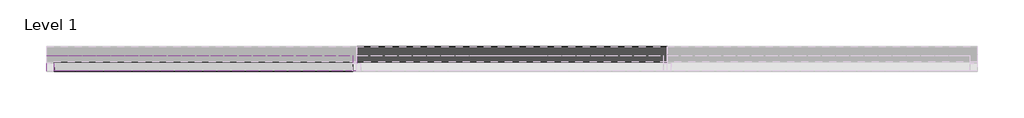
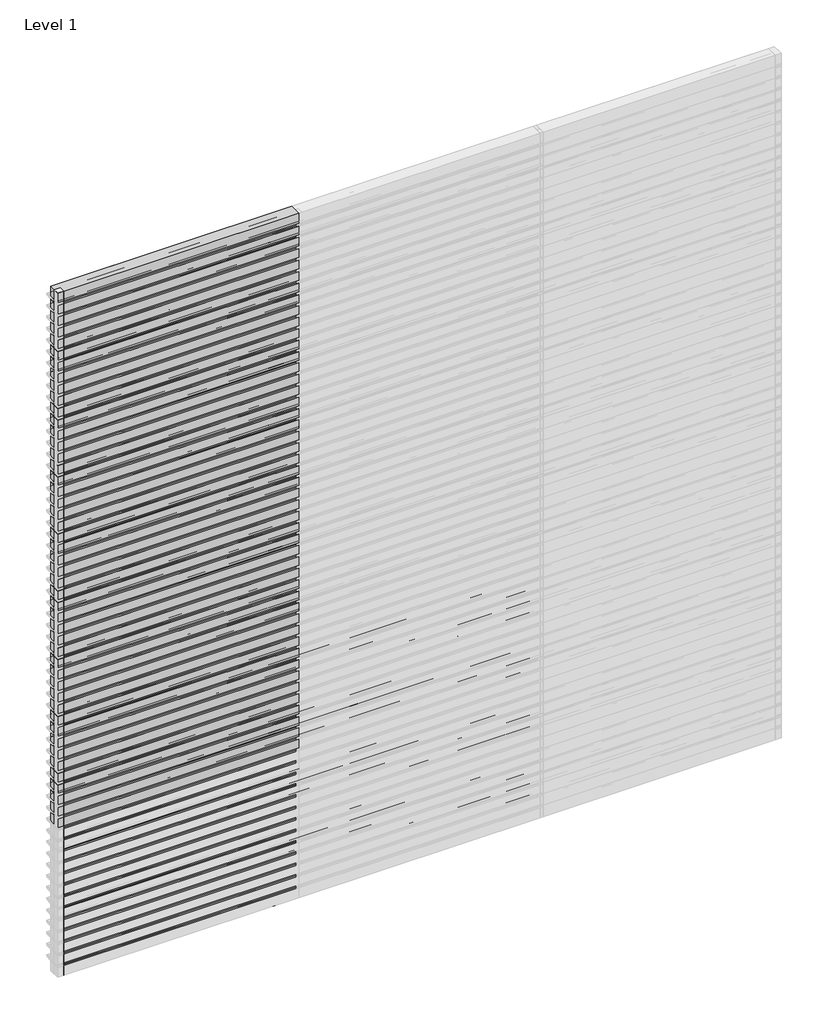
# One storey, part 2 of 6: 107 plates, 20 members.
"""IFC4 building model written with IfcOpenShell, lengths in millimetres."""

from ifc_helpers import new_model, si_unit, origin, place, context, project, spatial, transform, mapped, element, save
from components import rectangular_mullion_31e9810d, empty_system_panel_empty_de6cefbe, empty_system_panel_empty_499a71de, empty_system_panel_empty_20ea7497

model = new_model("IFC4")

# Units and contexts
model_context = context("Model", 3, world=origin())
ifc_project = project(units=[si_unit("LENGTHUNIT", "METRE", prefix="MILLI")], contexts=[model_context])

# Site, building, storey
site = spatial("IfcSite", under=ifc_project)
building = spatial("IfcBuilding", under=site)
storey = spatial("IfcBuildingStorey", under=building, Name="Level 1", Elevation=0.0)

# Members
placement = place(None, origin())
rectangular_mullion_shape = rectangular_mullion_31e9810d(model_context)
element("IfcMember", 1, ObjectType="Rectangular Mullion : RSen_21_CWM_blade - 100 ellips - 0°_gen_duco projects", at=placement, inside=storey, context=model_context, shape_type="MappedRepresentation", body=[
    mapped(rectangular_mullion_shape, transform((2000.0, 3000.0, 100.0), x_axis=(0.0, 0.0, 1.0), y_axis=(0.0, 1.0, 0.0), z_axis=(-1.0, 0.0, 0.0))),
])
element("IfcMember", 2, ObjectType="Rectangular Mullion : RSen_21_CWM_blade - 100 ellips - 0°_gen_duco projects", at=placement, inside=storey, context=model_context, shape_type="MappedRepresentation", body=[
    mapped(rectangular_mullion_shape, transform((2000.0, 3000.0, 200.0), x_axis=(0.0, 0.0, 1.0), y_axis=(0.0, 1.0, 0.0), z_axis=(-1.0, 0.0, 0.0))),
])
element("IfcMember", 3, ObjectType="Rectangular Mullion : RSen_21_CWM_blade - 100 ellips - 0°_gen_duco projects", at=placement, inside=storey, context=model_context, shape_type="MappedRepresentation", body=[
    mapped(rectangular_mullion_shape, transform((2000.0, 3000.0, 300.0), x_axis=(0.0, 0.0, 1.0), y_axis=(0.0, 1.0, 0.0), z_axis=(-1.0, 0.0, 0.0))),
])
element("IfcMember", 4, ObjectType="Rectangular Mullion : RSen_21_CWM_blade - 100 ellips - 0°_gen_duco projects", at=placement, inside=storey, context=model_context, shape_type="MappedRepresentation", body=[
    mapped(rectangular_mullion_shape, transform((2000.0, 3000.0, 400.0), x_axis=(0.0, 0.0, 1.0), y_axis=(0.0, 1.0, 0.0), z_axis=(-1.0, 0.0, 0.0))),
])
element("IfcMember", 5, ObjectType="Rectangular Mullion : RSen_21_CWM_blade - 100 ellips - 0°_gen_duco projects", at=placement, inside=storey, context=model_context, shape_type="MappedRepresentation", body=[
    mapped(rectangular_mullion_shape, transform((2000.0, 3000.0, 500.0), x_axis=(0.0, 0.0, 1.0), y_axis=(0.0, 1.0, 0.0), z_axis=(-1.0, 0.0, 0.0))),
])
element("IfcMember", 6, ObjectType="Rectangular Mullion : RSen_21_CWM_blade - 100 ellips - 0°_gen_duco projects", at=placement, inside=storey, context=model_context, shape_type="MappedRepresentation", body=[
    mapped(rectangular_mullion_shape, transform((2000.0, 3000.0, 600.0), x_axis=(0.0, 0.0, 1.0), y_axis=(0.0, 1.0, 0.0), z_axis=(-1.0, 0.0, 0.0))),
])
element("IfcMember", 7, ObjectType="Rectangular Mullion : RSen_21_CWM_blade - 100 ellips - 0°_gen_duco projects", at=placement, inside=storey, context=model_context, shape_type="MappedRepresentation", body=[
    mapped(rectangular_mullion_shape, transform((2000.0, 3000.0, 700.0), x_axis=(0.0, 0.0, 1.0), y_axis=(0.0, 1.0, 0.0), z_axis=(-1.0, 0.0, 0.0))),
])
element("IfcMember", 8, ObjectType="Rectangular Mullion : RSen_21_CWM_blade - 100 ellips - 0°_gen_duco projects", at=placement, inside=storey, context=model_context, shape_type="MappedRepresentation", body=[
    mapped(rectangular_mullion_shape, transform((2000.0, 3000.0, 800.0), x_axis=(0.0, 0.0, 1.0), y_axis=(0.0, 1.0, 0.0), z_axis=(-1.0, 0.0, 0.0))),
])
element("IfcMember", 9, ObjectType="Rectangular Mullion : RSen_21_CWM_blade - 100 ellips - 0°_gen_duco projects", at=placement, inside=storey, context=model_context, shape_type="MappedRepresentation", body=[
    mapped(rectangular_mullion_shape, transform((2000.0, 3000.0, 900.0), x_axis=(0.0, 0.0, 1.0), y_axis=(0.0, 1.0, 0.0), z_axis=(-1.0, 0.0, 0.0))),
])
element("IfcMember", 10, ObjectType="Rectangular Mullion : RSen_21_CWM_blade - 100 ellips - 0°_gen_duco projects", at=placement, inside=storey, context=model_context, shape_type="MappedRepresentation", body=[
    mapped(rectangular_mullion_shape, transform((2000.0, 3000.0, 1000.0), x_axis=(0.0, 0.0, 1.0), y_axis=(0.0, 1.0, 0.0), z_axis=(-1.0, 0.0, 0.0))),
])
element("IfcMember", 11, ObjectType="Rectangular Mullion : RSen_21_CWM_blade - 100 ellips - 0°_gen_duco projects", at=placement, inside=storey, context=model_context, shape_type="MappedRepresentation", body=[
    mapped(rectangular_mullion_shape, transform((2000.0, 3000.0, 1100.0), x_axis=(0.0, 0.0, 1.0), y_axis=(0.0, 1.0, 0.0), z_axis=(-1.0, 0.0, 0.0))),
])
element("IfcMember", 12, ObjectType="Rectangular Mullion : RSen_21_CWM_blade - 100 ellips - 0°_gen_duco projects", at=placement, inside=storey, context=model_context, shape_type="MappedRepresentation", body=[
    mapped(rectangular_mullion_shape, transform((2000.0, 3000.0, 1200.0), x_axis=(0.0, 0.0, 1.0), y_axis=(0.0, 1.0, 0.0), z_axis=(-1.0, 0.0, 0.0))),
])
element("IfcMember", 13, ObjectType="Rectangular Mullion : RSen_21_CWM_blade - 100 ellips - 0°_gen_duco projects", at=placement, inside=storey, context=model_context, shape_type="MappedRepresentation", body=[
    mapped(rectangular_mullion_shape, transform((2000.0, 3000.0, 1300.0), x_axis=(0.0, 0.0, 1.0), y_axis=(0.0, 1.0, 0.0), z_axis=(-1.0, 0.0, 0.0))),
])
element("IfcMember", 14, ObjectType="Rectangular Mullion : RSen_21_CWM_blade - 100 ellips - 0°_gen_duco projects", at=placement, inside=storey, context=model_context, shape_type="MappedRepresentation", body=[
    mapped(rectangular_mullion_shape, transform((2000.0, 3000.0, 1400.0), x_axis=(0.0, 0.0, 1.0), y_axis=(0.0, 1.0, 0.0), z_axis=(-1.0, 0.0, 0.0))),
])
element("IfcMember", 15, ObjectType="Rectangular Mullion : RSen_21_CWM_blade - 100 ellips - 0°_gen_duco projects", at=placement, inside=storey, context=model_context, shape_type="MappedRepresentation", body=[
    mapped(rectangular_mullion_shape, transform((2000.0, 3000.0, 1500.0), x_axis=(0.0, 0.0, 1.0), y_axis=(0.0, 1.0, 0.0), z_axis=(-1.0, 0.0, 0.0))),
])
element("IfcMember", 16, ObjectType="Rectangular Mullion : RSen_21_CWM_blade - 100 ellips - 0°_gen_duco projects", at=placement, inside=storey, context=model_context, shape_type="MappedRepresentation", body=[
    mapped(rectangular_mullion_shape, transform((2000.0, 3000.0, 1600.0), x_axis=(0.0, 0.0, 1.0), y_axis=(0.0, 1.0, 0.0), z_axis=(-1.0, 0.0, 0.0))),
])
element("IfcMember", 17, ObjectType="Rectangular Mullion : RSen_21_CWM_blade - 100 ellips - 0°_gen_duco projects", at=placement, inside=storey, context=model_context, shape_type="MappedRepresentation", body=[
    mapped(rectangular_mullion_shape, transform((2000.0, 3000.0, 1700.0), x_axis=(0.0, 0.0, 1.0), y_axis=(0.0, 1.0, 0.0), z_axis=(-1.0, 0.0, 0.0))),
])
element("IfcMember", 18, ObjectType="Rectangular Mullion : RSen_21_CWM_blade - 100 ellips - 0°_gen_duco projects", at=placement, inside=storey, context=model_context, shape_type="MappedRepresentation", body=[
    mapped(rectangular_mullion_shape, transform((2000.0, 3000.0, 1800.0), x_axis=(0.0, 0.0, 1.0), y_axis=(0.0, 1.0, 0.0), z_axis=(-1.0, 0.0, 0.0))),
])
element("IfcMember", 19, ObjectType="Rectangular Mullion : RSen_21_CWM_blade - 100 ellips - 0°_gen_duco projects", at=placement, inside=storey, context=model_context, shape_type="MappedRepresentation", body=[
    mapped(rectangular_mullion_shape, transform((2000.0, 3000.0, 1900.0), x_axis=(0.0, 0.0, 1.0), y_axis=(0.0, 1.0, 0.0), z_axis=(-1.0, 0.0, 0.0))),
])
element("IfcMember", 20, ObjectType="Rectangular Mullion : RSen_21_CWM_blade - 100 ellips - 0°_gen_duco projects", at=placement, inside=storey, context=model_context, shape_type="MappedRepresentation", body=[
    mapped(rectangular_mullion_shape, transform((2000.0, 3000.0, 2000.0), x_axis=(0.0, 0.0, 1.0), y_axis=(0.0, 1.0, 0.0), z_axis=(-1.0, 0.0, 0.0))),
])

# Plates
empty_system_panel_empty_shape = empty_system_panel_empty_de6cefbe(model_context)
element("IfcPlate", 21, ObjectType="Empty System Panel : Empty", at=placement, inside=storey, context=model_context, shape_type="MappedRepresentation", body=[
    mapped(empty_system_panel_empty_shape, transform((1000.0, 3000.0, 5913.0), x_axis=(-1.0, 0.0, 0.0), y_axis=(0.0, -1.0, 0.0), z_axis=(0.0, 0.0, 1.0))),
])
empty_system_panel_empty_2_shape = empty_system_panel_empty_499a71de(model_context)
element("IfcPlate", 22, ObjectType="Empty System Panel : Empty", at=placement, inside=storey, context=model_context, shape_type="MappedRepresentation", body=[
    mapped(empty_system_panel_empty_2_shape, transform((1000.0, 3000.0, 1313.0), x_axis=(-1.0, 0.0, 0.0), y_axis=(0.0, -1.0, 0.0), z_axis=(0.0, 0.0, 1.0))),
])
element("IfcPlate", 23, ObjectType="Empty System Panel : Empty", at=placement, inside=storey, context=model_context, shape_type="MappedRepresentation", body=[
    mapped(empty_system_panel_empty_2_shape, transform((1000.0, 3000.0, 1413.0), x_axis=(-1.0, 0.0, 0.0), y_axis=(0.0, -1.0, 0.0), z_axis=(0.0, 0.0, 1.0))),
])
element("IfcPlate", 24, ObjectType="Empty System Panel : Empty", at=placement, inside=storey, context=model_context, shape_type="MappedRepresentation", body=[
    mapped(empty_system_panel_empty_2_shape, transform((1000.0, 3000.0, 1513.0), x_axis=(-1.0, 0.0, 0.0), y_axis=(0.0, -1.0, 0.0), z_axis=(0.0, 0.0, 1.0))),
])
element("IfcPlate", 25, ObjectType="Empty System Panel : Empty", at=placement, inside=storey, context=model_context, shape_type="MappedRepresentation", body=[
    mapped(empty_system_panel_empty_2_shape, transform((1000.0, 3000.0, 1613.0), x_axis=(-1.0, 0.0, 0.0), y_axis=(0.0, -1.0, 0.0), z_axis=(0.0, 0.0, 1.0))),
])
element("IfcPlate", 26, ObjectType="Empty System Panel : Empty", at=placement, inside=storey, context=model_context, shape_type="MappedRepresentation", body=[
    mapped(empty_system_panel_empty_2_shape, transform((1000.0, 3000.0, 1713.0), x_axis=(-1.0, 0.0, 0.0), y_axis=(0.0, -1.0, 0.0), z_axis=(0.0, 0.0, 1.0))),
])
element("IfcPlate", 27, ObjectType="Empty System Panel : Empty", at=placement, inside=storey, context=model_context, shape_type="MappedRepresentation", body=[
    mapped(empty_system_panel_empty_2_shape, transform((1000.0, 3000.0, 1813.0), x_axis=(-1.0, 0.0, 0.0), y_axis=(0.0, -1.0, 0.0), z_axis=(0.0, 0.0, 1.0))),
])
element("IfcPlate", 28, ObjectType="Empty System Panel : Empty", at=placement, inside=storey, context=model_context, shape_type="MappedRepresentation", body=[
    mapped(empty_system_panel_empty_2_shape, transform((1000.0, 3000.0, 1913.0), x_axis=(-1.0, 0.0, 0.0), y_axis=(0.0, -1.0, 0.0), z_axis=(0.0, 0.0, 1.0))),
])
element("IfcPlate", 29, ObjectType="Empty System Panel : Empty", at=placement, inside=storey, context=model_context, shape_type="MappedRepresentation", body=[
    mapped(empty_system_panel_empty_2_shape, transform((1000.0, 3000.0, 2013.0), x_axis=(-1.0, 0.0, 0.0), y_axis=(0.0, -1.0, 0.0), z_axis=(0.0, 0.0, 1.0))),
])
element("IfcPlate", 30, ObjectType="Empty System Panel : Empty", at=placement, inside=storey, context=model_context, shape_type="MappedRepresentation", body=[
    mapped(empty_system_panel_empty_2_shape, transform((1000.0, 3000.0, 2113.0), x_axis=(-1.0, 0.0, 0.0), y_axis=(0.0, -1.0, 0.0), z_axis=(0.0, 0.0, 1.0))),
])
element("IfcPlate", 31, ObjectType="Empty System Panel : Empty", at=placement, inside=storey, context=model_context, shape_type="MappedRepresentation", body=[
    mapped(empty_system_panel_empty_2_shape, transform((1000.0, 3000.0, 2213.0), x_axis=(-1.0, 0.0, 0.0), y_axis=(0.0, -1.0, 0.0), z_axis=(0.0, 0.0, 1.0))),
])
element("IfcPlate", 32, ObjectType="Empty System Panel : Empty", at=placement, inside=storey, context=model_context, shape_type="MappedRepresentation", body=[
    mapped(empty_system_panel_empty_2_shape, transform((1000.0, 3000.0, 2313.0), x_axis=(-1.0, 0.0, 0.0), y_axis=(0.0, -1.0, 0.0), z_axis=(0.0, 0.0, 1.0))),
])
element("IfcPlate", 33, ObjectType="Empty System Panel : Empty", at=placement, inside=storey, context=model_context, shape_type="MappedRepresentation", body=[
    mapped(empty_system_panel_empty_2_shape, transform((1000.0, 3000.0, 2413.0), x_axis=(-1.0, 0.0, 0.0), y_axis=(0.0, -1.0, 0.0), z_axis=(0.0, 0.0, 1.0))),
])
element("IfcPlate", 34, ObjectType="Empty System Panel : Empty", at=placement, inside=storey, context=model_context, shape_type="MappedRepresentation", body=[
    mapped(empty_system_panel_empty_2_shape, transform((1000.0, 3000.0, 2513.0), x_axis=(-1.0, 0.0, 0.0), y_axis=(0.0, -1.0, 0.0), z_axis=(0.0, 0.0, 1.0))),
])
element("IfcPlate", 35, ObjectType="Empty System Panel : Empty", at=placement, inside=storey, context=model_context, shape_type="MappedRepresentation", body=[
    mapped(empty_system_panel_empty_2_shape, transform((1000.0, 3000.0, 2613.0), x_axis=(-1.0, 0.0, 0.0), y_axis=(0.0, -1.0, 0.0), z_axis=(0.0, 0.0, 1.0))),
])
element("IfcPlate", 36, ObjectType="Empty System Panel : Empty", at=placement, inside=storey, context=model_context, shape_type="MappedRepresentation", body=[
    mapped(empty_system_panel_empty_2_shape, transform((1000.0, 3000.0, 2713.0), x_axis=(-1.0, 0.0, 0.0), y_axis=(0.0, -1.0, 0.0), z_axis=(0.0, 0.0, 1.0))),
])
element("IfcPlate", 37, ObjectType="Empty System Panel : Empty", at=placement, inside=storey, context=model_context, shape_type="MappedRepresentation", body=[
    mapped(empty_system_panel_empty_2_shape, transform((1000.0, 3000.0, 2813.0), x_axis=(-1.0, 0.0, 0.0), y_axis=(0.0, -1.0, 0.0), z_axis=(0.0, 0.0, 1.0))),
])
element("IfcPlate", 38, ObjectType="Empty System Panel : Empty", at=placement, inside=storey, context=model_context, shape_type="MappedRepresentation", body=[
    mapped(empty_system_panel_empty_2_shape, transform((1000.0, 3000.0, 2913.0), x_axis=(-1.0, 0.0, 0.0), y_axis=(0.0, -1.0, 0.0), z_axis=(0.0, 0.0, 1.0))),
])
element("IfcPlate", 39, ObjectType="Empty System Panel : Empty", at=placement, inside=storey, context=model_context, shape_type="MappedRepresentation", body=[
    mapped(empty_system_panel_empty_2_shape, transform((1000.0, 3000.0, 3013.0), x_axis=(-1.0, 0.0, 0.0), y_axis=(0.0, -1.0, 0.0), z_axis=(0.0, 0.0, 1.0))),
])
element("IfcPlate", 40, ObjectType="Empty System Panel : Empty", at=placement, inside=storey, context=model_context, shape_type="MappedRepresentation", body=[
    mapped(empty_system_panel_empty_2_shape, transform((1000.0, 3000.0, 3113.0), x_axis=(-1.0, 0.0, 0.0), y_axis=(0.0, -1.0, 0.0), z_axis=(0.0, 0.0, 1.0))),
])
element("IfcPlate", 41, ObjectType="Empty System Panel : Empty", at=placement, inside=storey, context=model_context, shape_type="MappedRepresentation", body=[
    mapped(empty_system_panel_empty_2_shape, transform((1000.0, 3000.0, 3213.0), x_axis=(-1.0, 0.0, 0.0), y_axis=(0.0, -1.0, 0.0), z_axis=(0.0, 0.0, 1.0))),
])
element("IfcPlate", 42, ObjectType="Empty System Panel : Empty", at=placement, inside=storey, context=model_context, shape_type="MappedRepresentation", body=[
    mapped(empty_system_panel_empty_2_shape, transform((1000.0, 3000.0, 3313.0), x_axis=(-1.0, 0.0, 0.0), y_axis=(0.0, -1.0, 0.0), z_axis=(0.0, 0.0, 1.0))),
])
element("IfcPlate", 43, ObjectType="Empty System Panel : Empty", at=placement, inside=storey, context=model_context, shape_type="MappedRepresentation", body=[
    mapped(empty_system_panel_empty_2_shape, transform((1000.0, 3000.0, 3413.0), x_axis=(-1.0, 0.0, 0.0), y_axis=(0.0, -1.0, 0.0), z_axis=(0.0, 0.0, 1.0))),
])
element("IfcPlate", 44, ObjectType="Empty System Panel : Empty", at=placement, inside=storey, context=model_context, shape_type="MappedRepresentation", body=[
    mapped(empty_system_panel_empty_2_shape, transform((1000.0, 3000.0, 3513.0), x_axis=(-1.0, 0.0, 0.0), y_axis=(0.0, -1.0, 0.0), z_axis=(0.0, 0.0, 1.0))),
])
element("IfcPlate", 45, ObjectType="Empty System Panel : Empty", at=placement, inside=storey, context=model_context, shape_type="MappedRepresentation", body=[
    mapped(empty_system_panel_empty_2_shape, transform((1000.0, 3000.0, 3613.0), x_axis=(-1.0, 0.0, 0.0), y_axis=(0.0, -1.0, 0.0), z_axis=(0.0, 0.0, 1.0))),
])
element("IfcPlate", 46, ObjectType="Empty System Panel : Empty", at=placement, inside=storey, context=model_context, shape_type="MappedRepresentation", body=[
    mapped(empty_system_panel_empty_2_shape, transform((1000.0, 3000.0, 3713.0), x_axis=(-1.0, 0.0, 0.0), y_axis=(0.0, -1.0, 0.0), z_axis=(0.0, 0.0, 1.0))),
])
element("IfcPlate", 47, ObjectType="Empty System Panel : Empty", at=placement, inside=storey, context=model_context, shape_type="MappedRepresentation", body=[
    mapped(empty_system_panel_empty_2_shape, transform((1000.0, 3000.0, 3813.0), x_axis=(-1.0, 0.0, 0.0), y_axis=(0.0, -1.0, 0.0), z_axis=(0.0, 0.0, 1.0))),
])
element("IfcPlate", 48, ObjectType="Empty System Panel : Empty", at=placement, inside=storey, context=model_context, shape_type="MappedRepresentation", body=[
    mapped(empty_system_panel_empty_2_shape, transform((1000.0, 3000.0, 3913.0), x_axis=(-1.0, 0.0, 0.0), y_axis=(0.0, -1.0, 0.0), z_axis=(0.0, 0.0, 1.0))),
])
element("IfcPlate", 49, ObjectType="Empty System Panel : Empty", at=placement, inside=storey, context=model_context, shape_type="MappedRepresentation", body=[
    mapped(empty_system_panel_empty_2_shape, transform((1000.0, 3000.0, 4013.0), x_axis=(-1.0, 0.0, 0.0), y_axis=(0.0, -1.0, 0.0), z_axis=(0.0, 0.0, 1.0))),
])
element("IfcPlate", 50, ObjectType="Empty System Panel : Empty", at=placement, inside=storey, context=model_context, shape_type="MappedRepresentation", body=[
    mapped(empty_system_panel_empty_2_shape, transform((1000.0, 3000.0, 4113.0), x_axis=(-1.0, 0.0, 0.0), y_axis=(0.0, -1.0, 0.0), z_axis=(0.0, 0.0, 1.0))),
])
element("IfcPlate", 51, ObjectType="Empty System Panel : Empty", at=placement, inside=storey, context=model_context, shape_type="MappedRepresentation", body=[
    mapped(empty_system_panel_empty_2_shape, transform((1000.0, 3000.0, 4213.0), x_axis=(-1.0, 0.0, 0.0), y_axis=(0.0, -1.0, 0.0), z_axis=(0.0, 0.0, 1.0))),
])
element("IfcPlate", 52, ObjectType="Empty System Panel : Empty", at=placement, inside=storey, context=model_context, shape_type="MappedRepresentation", body=[
    mapped(empty_system_panel_empty_2_shape, transform((1000.0, 3000.0, 4313.0), x_axis=(-1.0, 0.0, 0.0), y_axis=(0.0, -1.0, 0.0), z_axis=(0.0, 0.0, 1.0))),
])
element("IfcPlate", 53, ObjectType="Empty System Panel : Empty", at=placement, inside=storey, context=model_context, shape_type="MappedRepresentation", body=[
    mapped(empty_system_panel_empty_2_shape, transform((1000.0, 3000.0, 4413.0), x_axis=(-1.0, 0.0, 0.0), y_axis=(0.0, -1.0, 0.0), z_axis=(0.0, 0.0, 1.0))),
])
element("IfcPlate", 54, ObjectType="Empty System Panel : Empty", at=placement, inside=storey, context=model_context, shape_type="MappedRepresentation", body=[
    mapped(empty_system_panel_empty_2_shape, transform((1000.0, 3000.0, 4513.0), x_axis=(-1.0, 0.0, 0.0), y_axis=(0.0, -1.0, 0.0), z_axis=(0.0, 0.0, 1.0))),
])
element("IfcPlate", 55, ObjectType="Empty System Panel : Empty", at=placement, inside=storey, context=model_context, shape_type="MappedRepresentation", body=[
    mapped(empty_system_panel_empty_2_shape, transform((1000.0, 3000.0, 4613.0), x_axis=(-1.0, 0.0, 0.0), y_axis=(0.0, -1.0, 0.0), z_axis=(0.0, 0.0, 1.0))),
])
element("IfcPlate", 56, ObjectType="Empty System Panel : Empty", at=placement, inside=storey, context=model_context, shape_type="MappedRepresentation", body=[
    mapped(empty_system_panel_empty_2_shape, transform((1000.0, 3000.0, 4713.0), x_axis=(-1.0, 0.0, 0.0), y_axis=(0.0, -1.0, 0.0), z_axis=(0.0, 0.0, 1.0))),
])
element("IfcPlate", 57, ObjectType="Empty System Panel : Empty", at=placement, inside=storey, context=model_context, shape_type="MappedRepresentation", body=[
    mapped(empty_system_panel_empty_2_shape, transform((1000.0, 3000.0, 4813.0), x_axis=(-1.0, 0.0, 0.0), y_axis=(0.0, -1.0, 0.0), z_axis=(0.0, 0.0, 1.0))),
])
element("IfcPlate", 58, ObjectType="Empty System Panel : Empty", at=placement, inside=storey, context=model_context, shape_type="MappedRepresentation", body=[
    mapped(empty_system_panel_empty_2_shape, transform((1000.0, 3000.0, 4913.0), x_axis=(-1.0, 0.0, 0.0), y_axis=(0.0, -1.0, 0.0), z_axis=(0.0, 0.0, 1.0))),
])
element("IfcPlate", 59, ObjectType="Empty System Panel : Empty", at=placement, inside=storey, context=model_context, shape_type="MappedRepresentation", body=[
    mapped(empty_system_panel_empty_2_shape, transform((1000.0, 3000.0, 5013.0), x_axis=(-1.0, 0.0, 0.0), y_axis=(0.0, -1.0, 0.0), z_axis=(0.0, 0.0, 1.0))),
])
element("IfcPlate", 60, ObjectType="Empty System Panel : Empty", at=placement, inside=storey, context=model_context, shape_type="MappedRepresentation", body=[
    mapped(empty_system_panel_empty_2_shape, transform((1000.0, 3000.0, 5113.0), x_axis=(-1.0, 0.0, 0.0), y_axis=(0.0, -1.0, 0.0), z_axis=(0.0, 0.0, 1.0))),
])
element("IfcPlate", 61, ObjectType="Empty System Panel : Empty", at=placement, inside=storey, context=model_context, shape_type="MappedRepresentation", body=[
    mapped(empty_system_panel_empty_2_shape, transform((1000.0, 3000.0, 5213.0), x_axis=(-1.0, 0.0, 0.0), y_axis=(0.0, -1.0, 0.0), z_axis=(0.0, 0.0, 1.0))),
])
element("IfcPlate", 62, ObjectType="Empty System Panel : Empty", at=placement, inside=storey, context=model_context, shape_type="MappedRepresentation", body=[
    mapped(empty_system_panel_empty_2_shape, transform((1000.0, 3000.0, 5313.0), x_axis=(-1.0, 0.0, 0.0), y_axis=(0.0, -1.0, 0.0), z_axis=(0.0, 0.0, 1.0))),
])
element("IfcPlate", 63, ObjectType="Empty System Panel : Empty", at=placement, inside=storey, context=model_context, shape_type="MappedRepresentation", body=[
    mapped(empty_system_panel_empty_2_shape, transform((1000.0, 3000.0, 5413.0), x_axis=(-1.0, 0.0, 0.0), y_axis=(0.0, -1.0, 0.0), z_axis=(0.0, 0.0, 1.0))),
])
element("IfcPlate", 64, ObjectType="Empty System Panel : Empty", at=placement, inside=storey, context=model_context, shape_type="MappedRepresentation", body=[
    mapped(empty_system_panel_empty_2_shape, transform((1000.0, 3000.0, 5513.0), x_axis=(-1.0, 0.0, 0.0), y_axis=(0.0, -1.0, 0.0), z_axis=(0.0, 0.0, 1.0))),
])
element("IfcPlate", 65, ObjectType="Empty System Panel : Empty", at=placement, inside=storey, context=model_context, shape_type="MappedRepresentation", body=[
    mapped(empty_system_panel_empty_2_shape, transform((1000.0, 3000.0, 5613.0), x_axis=(-1.0, 0.0, 0.0), y_axis=(0.0, -1.0, 0.0), z_axis=(0.0, 0.0, 1.0))),
])
element("IfcPlate", 66, ObjectType="Empty System Panel : Empty", at=placement, inside=storey, context=model_context, shape_type="MappedRepresentation", body=[
    mapped(empty_system_panel_empty_2_shape, transform((1000.0, 3000.0, 5713.0), x_axis=(-1.0, 0.0, 0.0), y_axis=(0.0, -1.0, 0.0), z_axis=(0.0, 0.0, 1.0))),
])
element("IfcPlate", 67, ObjectType="Empty System Panel : Empty", at=placement, inside=storey, context=model_context, shape_type="MappedRepresentation", body=[
    mapped(empty_system_panel_empty_2_shape, transform((1000.0, 3000.0, 5813.0), x_axis=(-1.0, 0.0, 0.0), y_axis=(0.0, -1.0, 0.0), z_axis=(0.0, 0.0, 1.0))),
])
empty_system_panel_empty_3_shape = empty_system_panel_empty_20ea7497(model_context)
element("IfcPlate", 68, ObjectType="Empty System Panel : Empty", at=placement, inside=storey, context=model_context, shape_type="MappedRepresentation", body=[
    mapped(empty_system_panel_empty_3_shape, transform((1012.5, 3000.0, 0.0), x_axis=(-1.0, 0.0, 0.0), y_axis=(0.0, -1.0, 0.0), z_axis=(0.0, 0.0, 1.0))),
])
element("IfcPlate", 69, ObjectType="Empty System Panel : Empty", at=placement, inside=storey, context=model_context, shape_type="MappedRepresentation", body=[
    mapped(empty_system_panel_empty_3_shape, transform((1012.5, 3000.0, 100.0), x_axis=(-1.0, 0.0, 0.0), y_axis=(0.0, -1.0, 0.0), z_axis=(0.0, 0.0, 1.0))),
])
element("IfcPlate", 70, ObjectType="Empty System Panel : Empty", at=placement, inside=storey, context=model_context, shape_type="MappedRepresentation", body=[
    mapped(empty_system_panel_empty_3_shape, transform((1012.5, 3000.0, 200.0), x_axis=(-1.0, 0.0, 0.0), y_axis=(0.0, -1.0, 0.0), z_axis=(0.0, 0.0, 1.0))),
])
element("IfcPlate", 71, ObjectType="Empty System Panel : Empty", at=placement, inside=storey, context=model_context, shape_type="MappedRepresentation", body=[
    mapped(empty_system_panel_empty_3_shape, transform((1012.5, 3000.0, 300.0), x_axis=(-1.0, 0.0, 0.0), y_axis=(0.0, -1.0, 0.0), z_axis=(0.0, 0.0, 1.0))),
])
element("IfcPlate", 72, ObjectType="Empty System Panel : Empty", at=placement, inside=storey, context=model_context, shape_type="MappedRepresentation", body=[
    mapped(empty_system_panel_empty_3_shape, transform((1012.5, 3000.0, 400.0), x_axis=(-1.0, 0.0, 0.0), y_axis=(0.0, -1.0, 0.0), z_axis=(0.0, 0.0, 1.0))),
])
element("IfcPlate", 73, ObjectType="Empty System Panel : Empty", at=placement, inside=storey, context=model_context, shape_type="MappedRepresentation", body=[
    mapped(empty_system_panel_empty_3_shape, transform((1012.5, 3000.0, 500.0), x_axis=(-1.0, 0.0, 0.0), y_axis=(0.0, -1.0, 0.0), z_axis=(0.0, 0.0, 1.0))),
])
element("IfcPlate", 74, ObjectType="Empty System Panel : Empty", at=placement, inside=storey, context=model_context, shape_type="MappedRepresentation", body=[
    mapped(empty_system_panel_empty_3_shape, transform((1012.5, 3000.0, 600.0), x_axis=(-1.0, 0.0, 0.0), y_axis=(0.0, -1.0, 0.0), z_axis=(0.0, 0.0, 1.0))),
])
element("IfcPlate", 75, ObjectType="Empty System Panel : Empty", at=placement, inside=storey, context=model_context, shape_type="MappedRepresentation", body=[
    mapped(empty_system_panel_empty_3_shape, transform((1012.5, 3000.0, 700.0), x_axis=(-1.0, 0.0, 0.0), y_axis=(0.0, -1.0, 0.0), z_axis=(0.0, 0.0, 1.0))),
])
element("IfcPlate", 76, ObjectType="Empty System Panel : Empty", at=placement, inside=storey, context=model_context, shape_type="MappedRepresentation", body=[
    mapped(empty_system_panel_empty_3_shape, transform((1012.5, 3000.0, 800.0), x_axis=(-1.0, 0.0, 0.0), y_axis=(0.0, -1.0, 0.0), z_axis=(0.0, 0.0, 1.0))),
])
element("IfcPlate", 77, ObjectType="Empty System Panel : Empty", at=placement, inside=storey, context=model_context, shape_type="MappedRepresentation", body=[
    mapped(empty_system_panel_empty_3_shape, transform((1012.5, 3000.0, 900.0), x_axis=(-1.0, 0.0, 0.0), y_axis=(0.0, -1.0, 0.0), z_axis=(0.0, 0.0, 1.0))),
])
element("IfcPlate", 78, ObjectType="Empty System Panel : Empty", at=placement, inside=storey, context=model_context, shape_type="MappedRepresentation", body=[
    mapped(empty_system_panel_empty_3_shape, transform((1012.5, 3000.0, 1000.0), x_axis=(-1.0, 0.0, 0.0), y_axis=(0.0, -1.0, 0.0), z_axis=(0.0, 0.0, 1.0))),
])
element("IfcPlate", 79, ObjectType="Empty System Panel : Empty", at=placement, inside=storey, context=model_context, shape_type="MappedRepresentation", body=[
    mapped(empty_system_panel_empty_3_shape, transform((1012.5, 3000.0, 1100.0), x_axis=(-1.0, 0.0, 0.0), y_axis=(0.0, -1.0, 0.0), z_axis=(0.0, 0.0, 1.0))),
])
element("IfcPlate", 80, ObjectType="Empty System Panel : Empty", at=placement, inside=storey, context=model_context, shape_type="MappedRepresentation", body=[
    mapped(empty_system_panel_empty_3_shape, transform((1012.5, 3000.0, 1200.0), x_axis=(-1.0, 0.0, 0.0), y_axis=(0.0, -1.0, 0.0), z_axis=(0.0, 0.0, 1.0))),
])
element("IfcPlate", 81, ObjectType="Empty System Panel : Empty", at=placement, inside=storey, context=model_context, shape_type="MappedRepresentation", body=[
    mapped(empty_system_panel_empty_3_shape, transform((1012.5, 3000.0, 1300.0), x_axis=(-1.0, 0.0, 0.0), y_axis=(0.0, -1.0, 0.0), z_axis=(0.0, 0.0, 1.0))),
])
element("IfcPlate", 82, ObjectType="Empty System Panel : Empty", at=placement, inside=storey, context=model_context, shape_type="MappedRepresentation", body=[
    mapped(empty_system_panel_empty_3_shape, transform((1012.5, 3000.0, 1400.0), x_axis=(-1.0, 0.0, 0.0), y_axis=(0.0, -1.0, 0.0), z_axis=(0.0, 0.0, 1.0))),
])
element("IfcPlate", 83, ObjectType="Empty System Panel : Empty", at=placement, inside=storey, context=model_context, shape_type="MappedRepresentation", body=[
    mapped(empty_system_panel_empty_3_shape, transform((1012.5, 3000.0, 1500.0), x_axis=(-1.0, 0.0, 0.0), y_axis=(0.0, -1.0, 0.0), z_axis=(0.0, 0.0, 1.0))),
])
element("IfcPlate", 84, ObjectType="Empty System Panel : Empty", at=placement, inside=storey, context=model_context, shape_type="MappedRepresentation", body=[
    mapped(empty_system_panel_empty_3_shape, transform((1012.5, 3000.0, 1600.0), x_axis=(-1.0, 0.0, 0.0), y_axis=(0.0, -1.0, 0.0), z_axis=(0.0, 0.0, 1.0))),
])
element("IfcPlate", 85, ObjectType="Empty System Panel : Empty", at=placement, inside=storey, context=model_context, shape_type="MappedRepresentation", body=[
    mapped(empty_system_panel_empty_3_shape, transform((1012.5, 3000.0, 1700.0), x_axis=(-1.0, 0.0, 0.0), y_axis=(0.0, -1.0, 0.0), z_axis=(0.0, 0.0, 1.0))),
])
element("IfcPlate", 86, ObjectType="Empty System Panel : Empty", at=placement, inside=storey, context=model_context, shape_type="MappedRepresentation", body=[
    mapped(empty_system_panel_empty_3_shape, transform((1012.5, 3000.0, 1800.0), x_axis=(-1.0, 0.0, 0.0), y_axis=(0.0, -1.0, 0.0), z_axis=(0.0, 0.0, 1.0))),
])
element("IfcPlate", 87, ObjectType="Empty System Panel : Empty", at=placement, inside=storey, context=model_context, shape_type="MappedRepresentation", body=[
    mapped(empty_system_panel_empty_3_shape, transform((1012.5, 3000.0, 1900.0), x_axis=(-1.0, 0.0, 0.0), y_axis=(0.0, -1.0, 0.0), z_axis=(0.0, 0.0, 1.0))),
])
element("IfcPlate", 88, ObjectType="Empty System Panel : Empty", at=placement, inside=storey, context=model_context, shape_type="MappedRepresentation", body=[
    mapped(empty_system_panel_empty_3_shape, transform((1012.5, 3000.0, 2000.0), x_axis=(-1.0, 0.0, 0.0), y_axis=(0.0, -1.0, 0.0), z_axis=(0.0, 0.0, 1.0))),
])
element("IfcPlate", 89, ObjectType="Empty System Panel : Empty", at=placement, inside=storey, context=model_context, shape_type="MappedRepresentation", body=[
    mapped(empty_system_panel_empty_3_shape, transform((1012.5, 3000.0, 2100.0), x_axis=(-1.0, 0.0, 0.0), y_axis=(0.0, -1.0, 0.0), z_axis=(0.0, 0.0, 1.0))),
])
element("IfcPlate", 90, ObjectType="Empty System Panel : Empty", at=placement, inside=storey, context=model_context, shape_type="MappedRepresentation", body=[
    mapped(empty_system_panel_empty_3_shape, transform((1012.5, 3000.0, 2200.0), x_axis=(-1.0, 0.0, 0.0), y_axis=(0.0, -1.0, 0.0), z_axis=(0.0, 0.0, 1.0))),
])
element("IfcPlate", 91, ObjectType="Empty System Panel : Empty", at=placement, inside=storey, context=model_context, shape_type="MappedRepresentation", body=[
    mapped(empty_system_panel_empty_3_shape, transform((1012.5, 3000.0, 2300.0), x_axis=(-1.0, 0.0, 0.0), y_axis=(0.0, -1.0, 0.0), z_axis=(0.0, 0.0, 1.0))),
])
element("IfcPlate", 92, ObjectType="Empty System Panel : Empty", at=placement, inside=storey, context=model_context, shape_type="MappedRepresentation", body=[
    mapped(empty_system_panel_empty_3_shape, transform((1012.5, 3000.0, 2400.0), x_axis=(-1.0, 0.0, 0.0), y_axis=(0.0, -1.0, 0.0), z_axis=(0.0, 0.0, 1.0))),
])
element("IfcPlate", 93, ObjectType="Empty System Panel : Empty", at=placement, inside=storey, context=model_context, shape_type="MappedRepresentation", body=[
    mapped(empty_system_panel_empty_3_shape, transform((1012.5, 3000.0, 2500.0), x_axis=(-1.0, 0.0, 0.0), y_axis=(0.0, -1.0, 0.0), z_axis=(0.0, 0.0, 1.0))),
])
element("IfcPlate", 94, ObjectType="Empty System Panel : Empty", at=placement, inside=storey, context=model_context, shape_type="MappedRepresentation", body=[
    mapped(empty_system_panel_empty_3_shape, transform((1012.5, 3000.0, 2600.0), x_axis=(-1.0, 0.0, 0.0), y_axis=(0.0, -1.0, 0.0), z_axis=(0.0, 0.0, 1.0))),
])
element("IfcPlate", 95, ObjectType="Empty System Panel : Empty", at=placement, inside=storey, context=model_context, shape_type="MappedRepresentation", body=[
    mapped(empty_system_panel_empty_3_shape, transform((1012.5, 3000.0, 2700.0), x_axis=(-1.0, 0.0, 0.0), y_axis=(0.0, -1.0, 0.0), z_axis=(0.0, 0.0, 1.0))),
])
element("IfcPlate", 96, ObjectType="Empty System Panel : Empty", at=placement, inside=storey, context=model_context, shape_type="MappedRepresentation", body=[
    mapped(empty_system_panel_empty_3_shape, transform((1012.5, 3000.0, 2800.0), x_axis=(-1.0, 0.0, 0.0), y_axis=(0.0, -1.0, 0.0), z_axis=(0.0, 0.0, 1.0))),
])
element("IfcPlate", 97, ObjectType="Empty System Panel : Empty", at=placement, inside=storey, context=model_context, shape_type="MappedRepresentation", body=[
    mapped(empty_system_panel_empty_3_shape, transform((1012.5, 3000.0, 2900.0), x_axis=(-1.0, 0.0, 0.0), y_axis=(0.0, -1.0, 0.0), z_axis=(0.0, 0.0, 1.0))),
])
element("IfcPlate", 98, ObjectType="Empty System Panel : Empty", at=placement, inside=storey, context=model_context, shape_type="MappedRepresentation", body=[
    mapped(empty_system_panel_empty_3_shape, transform((1012.5, 3000.0, 3000.0), x_axis=(-1.0, 0.0, 0.0), y_axis=(0.0, -1.0, 0.0), z_axis=(0.0, 0.0, 1.0))),
])
element("IfcPlate", 99, ObjectType="Empty System Panel : Empty", at=placement, inside=storey, context=model_context, shape_type="MappedRepresentation", body=[
    mapped(empty_system_panel_empty_3_shape, transform((1012.5, 3000.0, 3100.0), x_axis=(-1.0, 0.0, 0.0), y_axis=(0.0, -1.0, 0.0), z_axis=(0.0, 0.0, 1.0))),
])
element("IfcPlate", 100, ObjectType="Empty System Panel : Empty", at=placement, inside=storey, context=model_context, shape_type="MappedRepresentation", body=[
    mapped(empty_system_panel_empty_3_shape, transform((1012.5, 3000.0, 3200.0), x_axis=(-1.0, 0.0, 0.0), y_axis=(0.0, -1.0, 0.0), z_axis=(0.0, 0.0, 1.0))),
])
element("IfcPlate", 101, ObjectType="Empty System Panel : Empty", at=placement, inside=storey, context=model_context, shape_type="MappedRepresentation", body=[
    mapped(empty_system_panel_empty_3_shape, transform((1012.5, 3000.0, 3300.0), x_axis=(-1.0, 0.0, 0.0), y_axis=(0.0, -1.0, 0.0), z_axis=(0.0, 0.0, 1.0))),
])
element("IfcPlate", 102, ObjectType="Empty System Panel : Empty", at=placement, inside=storey, context=model_context, shape_type="MappedRepresentation", body=[
    mapped(empty_system_panel_empty_3_shape, transform((1012.5, 3000.0, 3400.0), x_axis=(-1.0, 0.0, 0.0), y_axis=(0.0, -1.0, 0.0), z_axis=(0.0, 0.0, 1.0))),
])
element("IfcPlate", 103, ObjectType="Empty System Panel : Empty", at=placement, inside=storey, context=model_context, shape_type="MappedRepresentation", body=[
    mapped(empty_system_panel_empty_3_shape, transform((1012.5, 3000.0, 3500.0), x_axis=(-1.0, 0.0, 0.0), y_axis=(0.0, -1.0, 0.0), z_axis=(0.0, 0.0, 1.0))),
])
element("IfcPlate", 104, ObjectType="Empty System Panel : Empty", at=placement, inside=storey, context=model_context, shape_type="MappedRepresentation", body=[
    mapped(empty_system_panel_empty_3_shape, transform((1012.5, 3000.0, 3600.0), x_axis=(-1.0, 0.0, 0.0), y_axis=(0.0, -1.0, 0.0), z_axis=(0.0, 0.0, 1.0))),
])
element("IfcPlate", 105, ObjectType="Empty System Panel : Empty", at=placement, inside=storey, context=model_context, shape_type="MappedRepresentation", body=[
    mapped(empty_system_panel_empty_3_shape, transform((1012.5, 3000.0, 3700.0), x_axis=(-1.0, 0.0, 0.0), y_axis=(0.0, -1.0, 0.0), z_axis=(0.0, 0.0, 1.0))),
])
element("IfcPlate", 106, ObjectType="Empty System Panel : Empty", at=placement, inside=storey, context=model_context, shape_type="MappedRepresentation", body=[
    mapped(empty_system_panel_empty_3_shape, transform((1012.5, 3000.0, 3800.0), x_axis=(-1.0, 0.0, 0.0), y_axis=(0.0, -1.0, 0.0), z_axis=(0.0, 0.0, 1.0))),
])
element("IfcPlate", 107, ObjectType="Empty System Panel : Empty", at=placement, inside=storey, context=model_context, shape_type="MappedRepresentation", body=[
    mapped(empty_system_panel_empty_3_shape, transform((1012.5, 3000.0, 3900.0), x_axis=(-1.0, 0.0, 0.0), y_axis=(0.0, -1.0, 0.0), z_axis=(0.0, 0.0, 1.0))),
])
element("IfcPlate", 108, ObjectType="Empty System Panel : Empty", at=placement, inside=storey, context=model_context, shape_type="MappedRepresentation", body=[
    mapped(empty_system_panel_empty_3_shape, transform((1012.5, 3000.0, 4000.0), x_axis=(-1.0, 0.0, 0.0), y_axis=(0.0, -1.0, 0.0), z_axis=(0.0, 0.0, 1.0))),
])
element("IfcPlate", 109, ObjectType="Empty System Panel : Empty", at=placement, inside=storey, context=model_context, shape_type="MappedRepresentation", body=[
    mapped(empty_system_panel_empty_3_shape, transform((1012.5, 3000.0, 4100.0), x_axis=(-1.0, 0.0, 0.0), y_axis=(0.0, -1.0, 0.0), z_axis=(0.0, 0.0, 1.0))),
])
element("IfcPlate", 110, ObjectType="Empty System Panel : Empty", at=placement, inside=storey, context=model_context, shape_type="MappedRepresentation", body=[
    mapped(empty_system_panel_empty_3_shape, transform((1012.5, 3000.0, 4200.0), x_axis=(-1.0, 0.0, 0.0), y_axis=(0.0, -1.0, 0.0), z_axis=(0.0, 0.0, 1.0))),
])
element("IfcPlate", 111, ObjectType="Empty System Panel : Empty", at=placement, inside=storey, context=model_context, shape_type="MappedRepresentation", body=[
    mapped(empty_system_panel_empty_3_shape, transform((1012.5, 3000.0, 4300.0), x_axis=(-1.0, 0.0, 0.0), y_axis=(0.0, -1.0, 0.0), z_axis=(0.0, 0.0, 1.0))),
])
element("IfcPlate", 112, ObjectType="Empty System Panel : Empty", at=placement, inside=storey, context=model_context, shape_type="MappedRepresentation", body=[
    mapped(empty_system_panel_empty_3_shape, transform((1012.5, 3000.0, 4400.0), x_axis=(-1.0, 0.0, 0.0), y_axis=(0.0, -1.0, 0.0), z_axis=(0.0, 0.0, 1.0))),
])
element("IfcPlate", 113, ObjectType="Empty System Panel : Empty", at=placement, inside=storey, context=model_context, shape_type="MappedRepresentation", body=[
    mapped(empty_system_panel_empty_3_shape, transform((1012.5, 3000.0, 4500.0), x_axis=(-1.0, 0.0, 0.0), y_axis=(0.0, -1.0, 0.0), z_axis=(0.0, 0.0, 1.0))),
])
element("IfcPlate", 114, ObjectType="Empty System Panel : Empty", at=placement, inside=storey, context=model_context, shape_type="MappedRepresentation", body=[
    mapped(empty_system_panel_empty_3_shape, transform((1012.5, 3000.0, 4600.0), x_axis=(-1.0, 0.0, 0.0), y_axis=(0.0, -1.0, 0.0), z_axis=(0.0, 0.0, 1.0))),
])
element("IfcPlate", 115, ObjectType="Empty System Panel : Empty", at=placement, inside=storey, context=model_context, shape_type="MappedRepresentation", body=[
    mapped(empty_system_panel_empty_3_shape, transform((1012.5, 3000.0, 4700.0), x_axis=(-1.0, 0.0, 0.0), y_axis=(0.0, -1.0, 0.0), z_axis=(0.0, 0.0, 1.0))),
])
element("IfcPlate", 116, ObjectType="Empty System Panel : Empty", at=placement, inside=storey, context=model_context, shape_type="MappedRepresentation", body=[
    mapped(empty_system_panel_empty_3_shape, transform((1012.5, 3000.0, 4800.0), x_axis=(-1.0, 0.0, 0.0), y_axis=(0.0, -1.0, 0.0), z_axis=(0.0, 0.0, 1.0))),
])
element("IfcPlate", 117, ObjectType="Empty System Panel : Empty", at=placement, inside=storey, context=model_context, shape_type="MappedRepresentation", body=[
    mapped(empty_system_panel_empty_3_shape, transform((1012.5, 3000.0, 4900.0), x_axis=(-1.0, 0.0, 0.0), y_axis=(0.0, -1.0, 0.0), z_axis=(0.0, 0.0, 1.0))),
])
element("IfcPlate", 118, ObjectType="Empty System Panel : Empty", at=placement, inside=storey, context=model_context, shape_type="MappedRepresentation", body=[
    mapped(empty_system_panel_empty_3_shape, transform((1012.5, 3000.0, 5000.0), x_axis=(-1.0, 0.0, 0.0), y_axis=(0.0, -1.0, 0.0), z_axis=(0.0, 0.0, 1.0))),
])
element("IfcPlate", 119, ObjectType="Empty System Panel : Empty", at=placement, inside=storey, context=model_context, shape_type="MappedRepresentation", body=[
    mapped(empty_system_panel_empty_3_shape, transform((1012.5, 3000.0, 5100.0), x_axis=(-1.0, 0.0, 0.0), y_axis=(0.0, -1.0, 0.0), z_axis=(0.0, 0.0, 1.0))),
])
element("IfcPlate", 120, ObjectType="Empty System Panel : Empty", at=placement, inside=storey, context=model_context, shape_type="MappedRepresentation", body=[
    mapped(empty_system_panel_empty_3_shape, transform((1012.5, 3000.0, 5200.0), x_axis=(-1.0, 0.0, 0.0), y_axis=(0.0, -1.0, 0.0), z_axis=(0.0, 0.0, 1.0))),
])
element("IfcPlate", 121, ObjectType="Empty System Panel : Empty", at=placement, inside=storey, context=model_context, shape_type="MappedRepresentation", body=[
    mapped(empty_system_panel_empty_3_shape, transform((1012.5, 3000.0, 5300.0), x_axis=(-1.0, 0.0, 0.0), y_axis=(0.0, -1.0, 0.0), z_axis=(0.0, 0.0, 1.0))),
])
element("IfcPlate", 122, ObjectType="Empty System Panel : Empty", at=placement, inside=storey, context=model_context, shape_type="MappedRepresentation", body=[
    mapped(empty_system_panel_empty_3_shape, transform((1012.5, 3000.0, 5400.0), x_axis=(-1.0, 0.0, 0.0), y_axis=(0.0, -1.0, 0.0), z_axis=(0.0, 0.0, 1.0))),
])
element("IfcPlate", 123, ObjectType="Empty System Panel : Empty", at=placement, inside=storey, context=model_context, shape_type="MappedRepresentation", body=[
    mapped(empty_system_panel_empty_3_shape, transform((1012.5, 3000.0, 5500.0), x_axis=(-1.0, 0.0, 0.0), y_axis=(0.0, -1.0, 0.0), z_axis=(0.0, 0.0, 1.0))),
])
element("IfcPlate", 124, ObjectType="Empty System Panel : Empty", at=placement, inside=storey, context=model_context, shape_type="MappedRepresentation", body=[
    mapped(empty_system_panel_empty_3_shape, transform((1012.5, 3000.0, 5600.0), x_axis=(-1.0, 0.0, 0.0), y_axis=(0.0, -1.0, 0.0), z_axis=(0.0, 0.0, 1.0))),
])
element("IfcPlate", 125, ObjectType="Empty System Panel : Empty", at=placement, inside=storey, context=model_context, shape_type="MappedRepresentation", body=[
    mapped(empty_system_panel_empty_3_shape, transform((1012.5, 3000.0, 5700.0), x_axis=(-1.0, 0.0, 0.0), y_axis=(0.0, -1.0, 0.0), z_axis=(0.0, 0.0, 1.0))),
])
element("IfcPlate", 126, ObjectType="Empty System Panel : Empty", at=placement, inside=storey, context=model_context, shape_type="MappedRepresentation", body=[
    mapped(empty_system_panel_empty_3_shape, transform((1012.5, 3000.0, 5800.0), x_axis=(-1.0, 0.0, 0.0), y_axis=(0.0, -1.0, 0.0), z_axis=(0.0, 0.0, 1.0))),
])
element("IfcPlate", 127, ObjectType="Empty System Panel : Empty", at=placement, inside=storey, context=model_context, shape_type="MappedRepresentation", body=[
    mapped(empty_system_panel_empty_3_shape, transform((1012.5, 3000.0, 5900.0), x_axis=(-1.0, 0.0, 0.0), y_axis=(0.0, -1.0, 0.0), z_axis=(0.0, 0.0, 1.0))),
])

save(model, "model.ifc")
